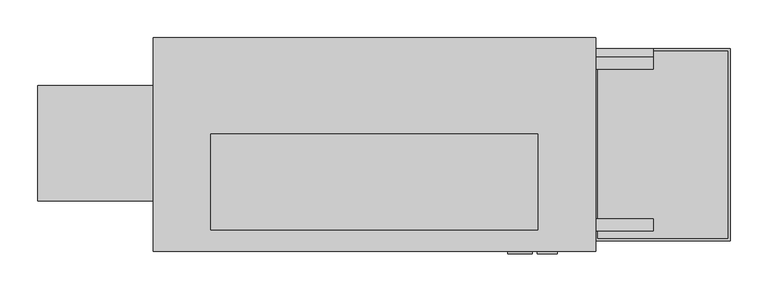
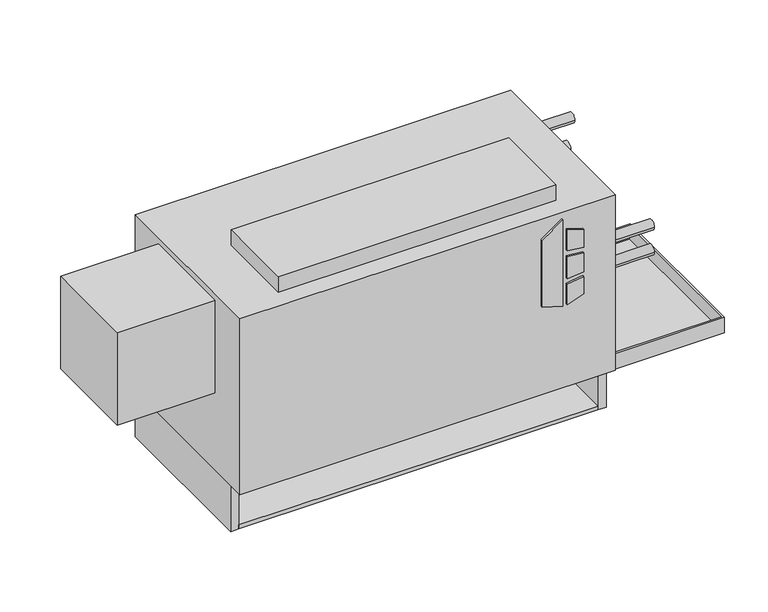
"""IFC4 building model written with IfcOpenShell, lengths in millimetres: proxy geometry, Concealed_Vertical_Low_Boy_Fan_Coil_Unit Fan_-_LHA_-_IEC_-_4-Pipe_RH_2022 : Size 02 - 277v/60Hz/1Ph - 2/1 Coil."""

from ifc_helpers import new_model, si_unit, point, frame, frame_2d, origin, origin_with_axes, place, context, project, spatial, polyline, circle_curve, trimmed, segment, composite_curve, outline, extrude, faceted_brep, source, transform, mapped, element, save


def mechanical_equipment_d1532af1(model_context):
    return source(origin(), model_context, "Body", "SolidModel", [
        faceted_brep([(914.4, -252.4125, 92.075), (736.6, -252.4125, 92.075), (736.6, -506.4125, 92.075), (914.4, -506.4125, 92.075), (739.775, -255.5875, 92.075), (911.225, -255.5875, 92.075), (911.225, -503.2375, 92.075), (739.775, -503.2375, 92.075), (914.4, -252.4125, 66.675), (914.4, -506.4125, 66.675), (736.6, -506.4125, 66.675), (736.6, -252.4125, 66.675), (911.225, -255.5875, 69.8497888), (739.775, -255.5875, 69.8497888), (739.775, -503.2375, 69.8497888), (911.225, -503.2375, 69.8497888)], [[[0, 1, 2, 3], [4, 5, 6, 7]], [[8, 9, 10, 11]], [[1, 0, 8, 11]], [[2, 1, 11, 10]], [[3, 2, 10, 9]], [[0, 3, 9, 8]], [[12, 13, 14, 15]], [[13, 12, 5, 4]], [[14, 13, 4, 7]], [[15, 14, 7, 6]], [[12, 15, 6, 5]]]),
        extrude(outline(composite_curve([segment(trimmed(circle_curve(frame_2d((825.5, -379.4125)), 9.525), [point((815.975, -379.4125))], [point((835.025, -379.4125))], False, "CARTESIAN"), True, "CONTINUOUS"), segment(trimmed(circle_curve(frame_2d((825.5, -379.4125)), 9.525), [point((835.025, -379.4125))], [point((815.975, -379.4125))], False, "CARTESIAN"), True, "CONTINUOUS")], self_intersect=False)), frame((0.0, 0.0, 41.275), z_axis=(0.0, 0.0, 1.0), x_axis=(1.0, 0.0, 0.0)), (0.0, 0.0, 1.0), 25.4),
        extrude(outline(polyline([(222.6730703, 620.7868862), (212.725, 652.9602728), (354.8959244, 652.9602728), (331.8739183, 620.7868862), (222.6730703, 620.7868862)])), frame((0.0, -523.875, 0.0), z_axis=(0.0, 1.0, 0.0), x_axis=(0.0, 0.0, 1.0)), (0.0, 0.0, 1.0), 3.175),
        extrude(outline(polyline([(301.6723557, 659.7186058), (298.4699632, 685.8), (327.6988042, 685.8), (335.7632193, 659.7186058), (301.6723557, 659.7186058)])), frame((0.0, -523.875, 0.0), z_axis=(0.0, 1.0, 0.0), x_axis=(0.0, 0.0, 1.0)), (0.0, 0.0, 1.0), 3.175),
        extrude(outline(polyline([(249.8088288, 685.8), (246.1433279, 659.7186058), (212.725, 659.7186058), (221.3592372, 685.8), (249.8088288, 685.8)])), frame((0.0, -523.875, 0.0), z_axis=(0.0, 1.0, 0.0), x_axis=(0.0, 0.0, 1.0)), (0.0, 0.0, 1.0), 3.175),
        extrude(outline(polyline([(289.1239903, 685.8), (291.4058166, 659.7186058), (255.4682681, 659.7186058), (258.2095331, 685.8), (289.1239903, 685.8)])), frame((0.0, -523.875, 0.0), z_axis=(0.0, 1.0, 0.0), x_axis=(0.0, 0.0, 1.0)), (0.0, 0.0, 1.0), 3.175),
        extrude(outline(polyline([(660.4, -365.125), (660.4, -492.125), (228.6, -492.125), (228.6, -365.125), (660.4, -365.125)])), frame((0.0, 0.0, 365.125), z_axis=(0.0, 0.0, 1.0), x_axis=(1.0, 0.0, 0.0)), (0.0, 0.0, 1.0), 25.4),
        extrude(outline(polyline([(736.6, -520.7), (152.4, -520.7), (152.4, -238.125), (736.6, -238.125), (736.6, -520.7)])), frame((0.0, 0.0, 76.2), z_axis=(0.0, 0.0, 1.0), x_axis=(1.0, 0.0, 0.0)), (0.0, 0.0, 1.0), 288.925),
        extrude(outline(polyline([(723.9, -495.3), (165.1, -495.3), (165.1, -244.475), (723.9, -244.475), (723.9, -495.3)])), origin_with_axes(), (0.0, 0.0, 1.0), 6.35),
        extrude(outline(polyline([(723.9, -238.125), (723.9, -244.475), (165.1, -244.475), (165.1, -238.125), (723.9, -238.125)])), origin_with_axes(), (0.0, 0.0, 1.0), 76.2),
        extrude(outline(polyline([(736.6, -238.125), (736.6, -495.3), (723.9, -495.3), (723.9, -238.125), (736.6, -238.125)])), origin_with_axes(), (0.0, 0.0, 1.0), 76.2),
        extrude(outline(polyline([(165.1, -238.125), (165.1, -495.3), (152.4, -495.3), (152.4, -238.125), (165.1, -238.125)])), origin_with_axes(), (0.0, 0.0, 1.0), 76.2),
        extrude(outline(composite_curve([segment(trimmed(circle_curve(frame_2d((-271.4625, 314.325)), 7.9375), [point((-263.525, 314.325))], [point((-279.4, 314.325))], False, "CARTESIAN"), True, "CONTINUOUS"), segment(trimmed(circle_curve(frame_2d((-271.4625, 314.325)), 7.9375), [point((-279.4, 314.325))], [point((-263.525, 314.325))], False, "CARTESIAN"), True, "CONTINUOUS")], self_intersect=False)), frame((736.6, 0.0, 0.0), z_axis=(1.0, 0.0, 0.0), x_axis=(0.0, 1.0, 0.0)), (0.0, 0.0, 1.0), 76.2),
        extrude(outline(composite_curve([segment(trimmed(circle_curve(frame_2d((-260.35, 260.35)), 7.9375), [point((-252.4125, 260.35))], [point((-268.2875, 260.35))], False, "CARTESIAN"), True, "CONTINUOUS"), segment(trimmed(circle_curve(frame_2d((-260.35, 260.35)), 7.9375), [point((-268.2875, 260.35))], [point((-252.4125, 260.35))], False, "CARTESIAN"), True, "CONTINUOUS")], self_intersect=False)), frame((736.6, 0.0, 0.0), z_axis=(1.0, 0.0, 0.0), x_axis=(0.0, 1.0, 0.0)), (0.0, 0.0, 1.0), 76.2),
        extrude(outline(composite_curve([segment(trimmed(circle_curve(frame_2d((-485.775, 227.0125)), 7.9375), [point((-477.8375, 227.0125))], [point((-493.7125, 227.0125))], False, "CARTESIAN"), True, "CONTINUOUS"), segment(trimmed(circle_curve(frame_2d((-485.775, 227.0125)), 7.9375), [point((-493.7125, 227.0125))], [point((-477.8375, 227.0125))], False, "CARTESIAN"), True, "CONTINUOUS")], self_intersect=False)), frame((736.6, 0.0, 0.0), z_axis=(1.0, 0.0, 0.0), x_axis=(0.0, 1.0, 0.0)), (0.0, 0.0, 1.0), 76.2),
        extrude(outline(composite_curve([segment(trimmed(circle_curve(frame_2d((-485.775, 268.2875)), 7.9375), [point((-477.8375, 268.2875))], [point((-493.7125, 268.2875))], False, "CARTESIAN"), True, "CONTINUOUS"), segment(trimmed(circle_curve(frame_2d((-485.775, 268.2875)), 7.9375), [point((-493.7125, 268.2875))], [point((-477.8375, 268.2875))], False, "CARTESIAN"), True, "CONTINUOUS")], self_intersect=False)), frame((736.6, 0.0, 0.0), z_axis=(1.0, 0.0, 0.0), x_axis=(0.0, 1.0, 0.0)), (0.0, 0.0, 1.0), 76.2),
        extrude(outline(polyline([(0.0, -301.625), (152.4, -301.625), (152.4, -454.025), (0.0, -454.025), (0.0, -301.625)])), frame((0.0, 0.0, 203.5632719), z_axis=(0.0, 0.0, 1.0), x_axis=(1.0, 0.0, 0.0)), (0.0, 0.0, 1.0), 152.0367281),
    ])


if __name__ == "__main__":
    model = new_model("IFC4")
    model_context = context("Model", 3, world=origin())
    ifc_project = project(units=[si_unit("LENGTHUNIT", "METRE", prefix="MILLI")], contexts=[model_context])
    site = spatial("IfcSite", under=ifc_project)
    building = spatial("IfcBuilding", under=site)
    placement = place(None, origin())
    mechanical_equipment_shape = mechanical_equipment_d1532af1(model_context)
    element("IfcBuildingElementProxy", 1, Name="Concealed_Vertical_Low_Boy_Fan_Coil_Unit Fan_-_LHA_-_IEC_-_4-Pipe_RH_2022 : Size 02 - 277v/60Hz/1Ph - 2/1 Coil", ObjectType="Concealed_Vertical_Low_Boy_Fan_Coil_Unit Fan_-_LHA_-_IEC_-_4-Pipe_RH_2022 : Size 02 - 277v/60Hz/1Ph - 2/1 Coil", at=placement, inside=building, context=model_context, shape_type="MappedRepresentation", body=[
        mapped(mechanical_equipment_shape, transform((0.0, 0.0, 0.0), x_axis=(1.0, 0.0, 0.0), y_axis=(0.0, 1.0, 0.0), z_axis=(0.0, 0.0, 1.0))),
    ])
    save(model, "model.ifc")
